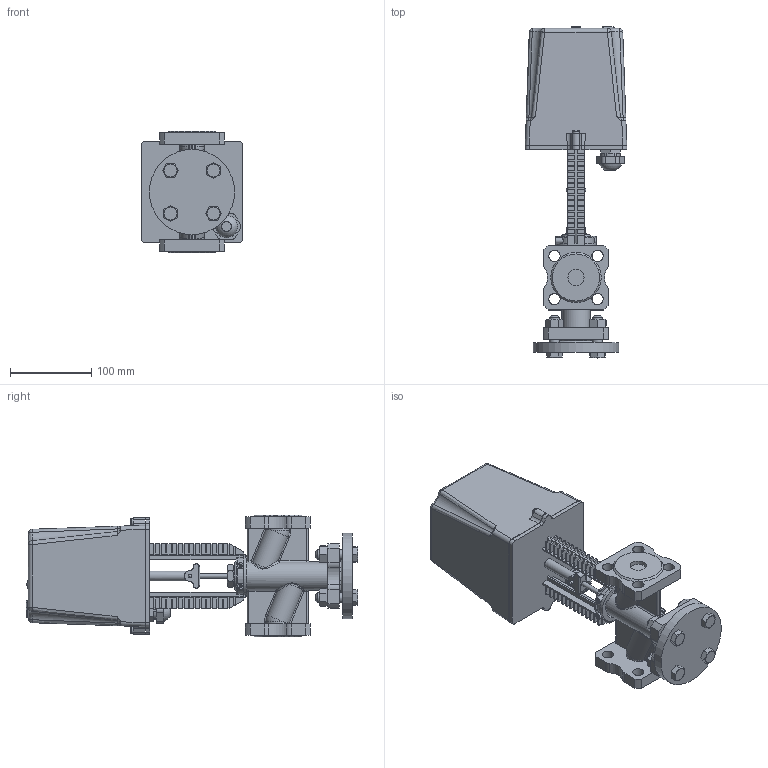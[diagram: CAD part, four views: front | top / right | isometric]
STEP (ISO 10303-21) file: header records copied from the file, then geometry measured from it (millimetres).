
FILE_DESCRIPTION(('STEP AP242'), '1');
FILE_NAME('VSR1-13V-PED-F Êëàïàí çàïîðíî-ðåãóëèðóþùèé DN.ru Äó20 Ðó16', '', ('UNSPECIFIED'), ('UNSPECIFIED'), 'C3D Converter', 'C3D Toolkit', '');
FILE_SCHEMA(('AP242_MANAGED_MODEL_BASED_3D_ENGINEERING_MIM_LF { 1 0 10303 442 1 1 4 }'));
Length unit declared in the file: millimetre
Products named in the file (1): VSR1-13V-PED-F
Bounding box: 125 x 409 x 150 mm (x, y, z)
Volume: 2767359.1 mm3; surface area: 267237.5 mm2
Topology: 1 solids, 1 shells, 1415 faces, 3844 edges, 2423 vertices
Faces by surface type: plane 724, cylinder 306, extrusion 151, bspline 104, torus 55, cone 42, sphere 33
Full cylindrical faces by diameter (mm): 4 x5, 6 x1, 7 x2, 7.5 x3, 10.106 x4, 12 x6, 14 x16, 20 x2, 25 x1, 35 x1, 50 x1, 105 x1
Entity records: 65059 total; most frequent: CARTESIAN_POINT 23411, ORIENTED_EDGE 7384, DIRECTION 6293, EDGE_CURVE 3692, VERTEX_POINT 2415, VECTOR 2379, LINE 2228, AXIS2_PLACEMENT_3D 1957
